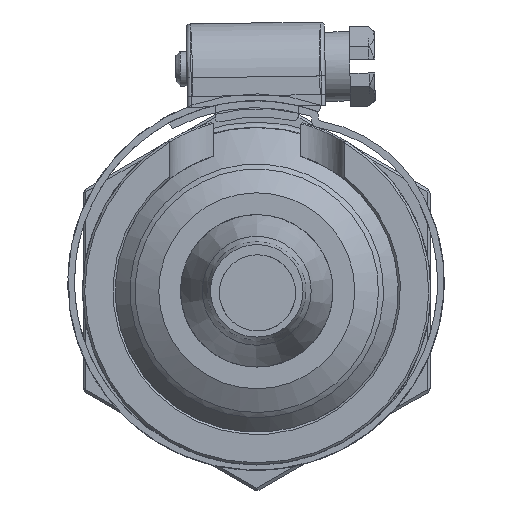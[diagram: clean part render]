
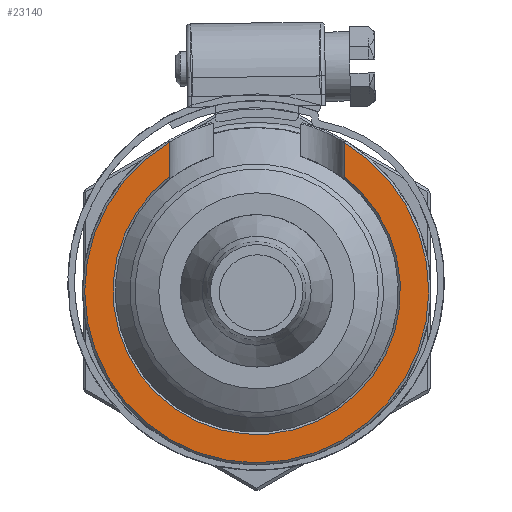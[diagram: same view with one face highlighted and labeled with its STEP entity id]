
A CAD part, front view. The second image highlights one B-rep face of the part: STEP entity #23140.
In plain terms, the highlighted planar face has unit normal (0, -1, 0) as drawn and (0, 1, 0) by its records, which use the part's own axes.
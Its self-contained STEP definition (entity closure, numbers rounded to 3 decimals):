
#767=LINE('',#42075,#2192);
#768=LINE('',#42076,#2193);
#2192=VECTOR('',#26250,1000.);
#2193=VECTOR('',#26251,1000.);
#3665=PLANE('',#24200);
#4253=CIRCLE('',#24167,13.2);
#4269=CIRCLE('',#24194,15.8);
#5795=ORIENTED_EDGE('',*,*,#10679,.F.);
#5796=ORIENTED_EDGE('',*,*,#10627,.T.);
#5797=ORIENTED_EDGE('',*,*,#10680,.T.);
#5798=ORIENTED_EDGE('',*,*,#10670,.F.);
#10627=EDGE_CURVE('',#13158,#13160,#4253,.T.);
#10670=EDGE_CURVE('',#13193,#13194,#4269,.T.);
#10679=EDGE_CURVE('',#13158,#13193,#767,.T.);
#10680=EDGE_CURVE('',#13160,#13194,#768,.T.);
#13158=VERTEX_POINT('',#41872);
#13160=VERTEX_POINT('',#41876);
#13193=VERTEX_POINT('',#42057);
#13194=VERTEX_POINT('',#42059);
#15474=EDGE_LOOP('',(#5795,#5796,#5797,#5798));
#16656=FACE_BOUND('',#15474,.T.);
#23140=ADVANCED_FACE('',(#16656),#3665,.F.);
#24167=AXIS2_PLACEMENT_3D('',#41877,#26158,#26159);
#24194=AXIS2_PLACEMENT_3D('',#42058,#26229,#26230);
#24200=AXIS2_PLACEMENT_3D('',#42074,#26248,#26249);
#26158=DIRECTION('',(0.,-1.,0.));
#26159=DIRECTION('',(0.,0.,-1.));
#26229=DIRECTION('',(0.,-1.,0.));
#26230=DIRECTION('',(0.,0.,-1.));
#26248=DIRECTION('',(0.,-1.,0.));
#26249=DIRECTION('',(0.,0.,-1.));
#26250=DIRECTION('',(1.,0.,0.));
#26251=DIRECTION('',(1.,0.,0.));
#41872=CARTESIAN_POINT('',(10.5,70.,8.));
#41876=CARTESIAN_POINT('',(10.5,70.,-8.));
#41877=CARTESIAN_POINT('',(0.,70.,0.));
#42057=CARTESIAN_POINT('',(13.625,70.,8.));
#42058=CARTESIAN_POINT('',(0.,70.,0.));
#42059=CARTESIAN_POINT('',(13.625,70.,-8.));
#42074=CARTESIAN_POINT('',(-16.,70.,0.));
#42075=CARTESIAN_POINT('',(6.,70.,8.));
#42076=CARTESIAN_POINT('',(6.,70.,-8.));
